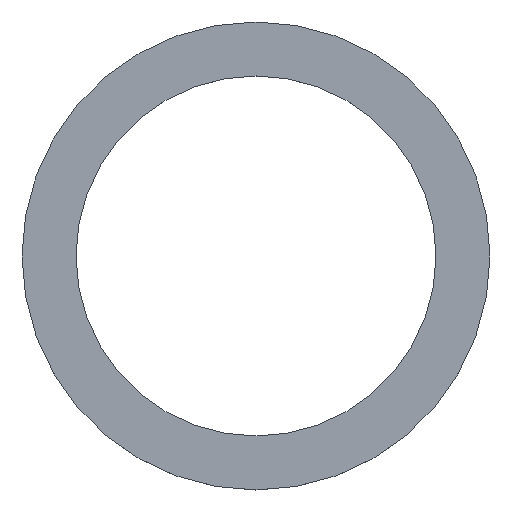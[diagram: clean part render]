
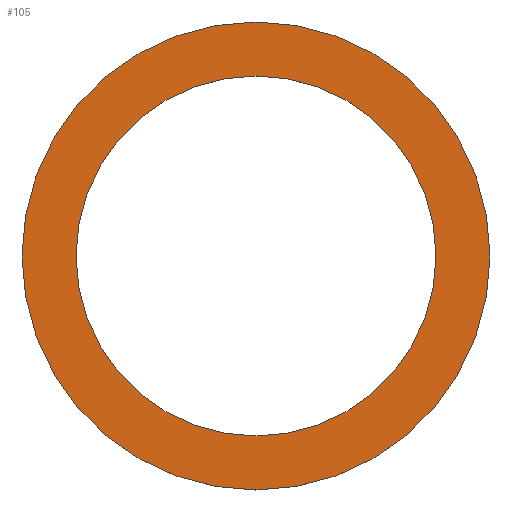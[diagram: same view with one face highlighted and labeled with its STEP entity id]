
A CAD part, top view. The second image highlights one B-rep face of the part: STEP entity #105.
In plain terms, the highlighted planar face has unit normal (0, 0, 1).
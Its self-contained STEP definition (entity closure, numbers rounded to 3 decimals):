
#21 = EDGE_CURVE('',#22,#22,#24,.T.);
#22 = VERTEX_POINT('',#23);
#23 = CARTESIAN_POINT('',(1.3,0.,5.3));
#24 = SURFACE_CURVE('',#25,(#30,#42),.PCURVE_S1.);
#25 = CIRCLE('',#26,1.3);
#26 = AXIS2_PLACEMENT_3D('',#27,#28,#29);
#27 = CARTESIAN_POINT('',(0.,0.,5.3));
#28 = DIRECTION('',(0.,0.,1.));
#29 = DIRECTION('',(1.,0.,-0.));
#30 = PCURVE('',#31,#36);
#31 = CYLINDRICAL_SURFACE('',#32,1.3);
#32 = AXIS2_PLACEMENT_3D('',#33,#34,#35);
#33 = CARTESIAN_POINT('',(0.,0.,5.2));
#34 = DIRECTION('',(0.,0.,1.));
#35 = DIRECTION('',(1.,0.,-0.));
#36 = DEFINITIONAL_REPRESENTATION('',(#37),#41);
#37 = LINE('',#38,#39);
#38 = CARTESIAN_POINT('',(0.,0.1));
#39 = VECTOR('',#40,1.);
#40 = DIRECTION('',(1.,0.));
#41 = ( GEOMETRIC_REPRESENTATION_CONTEXT(2) 
PARAMETRIC_REPRESENTATION_CONTEXT() REPRESENTATION_CONTEXT('2D SPACE',''
  ) );
#42 = PCURVE('',#43,#48);
#43 = PLANE('',#44);
#44 = AXIS2_PLACEMENT_3D('',#45,#46,#47);
#45 = CARTESIAN_POINT('',(0.,0.,5.3));
#46 = DIRECTION('',(0.,0.,1.));
#47 = DIRECTION('',(1.,0.,-0.));
#48 = DEFINITIONAL_REPRESENTATION('',(#49),#53);
#49 = CIRCLE('',#50,1.3);
#50 = AXIS2_PLACEMENT_2D('',#51,#52);
#51 = CARTESIAN_POINT('',(0.,0.));
#52 = DIRECTION('',(1.,0.));
#53 = ( GEOMETRIC_REPRESENTATION_CONTEXT(2) 
PARAMETRIC_REPRESENTATION_CONTEXT() REPRESENTATION_CONTEXT('2D SPACE',''
  ) );
#105 = ADVANCED_FACE('',(#106,#109),#43,.T.);
#106 = FACE_BOUND('',#107,.T.);
#107 = EDGE_LOOP('',(#108));
#108 = ORIENTED_EDGE('',*,*,#21,.T.);
#109 = FACE_BOUND('',#110,.T.);
#110 = EDGE_LOOP('',(#111));
#111 = ORIENTED_EDGE('',*,*,#112,.F.);
#112 = EDGE_CURVE('',#113,#113,#115,.T.);
#113 = VERTEX_POINT('',#114);
#114 = CARTESIAN_POINT('',(1.,0.,5.3));
#115 = SURFACE_CURVE('',#116,(#121,#128),.PCURVE_S1.);
#116 = CIRCLE('',#117,1.);
#117 = AXIS2_PLACEMENT_3D('',#118,#119,#120);
#118 = CARTESIAN_POINT('',(0.,0.,5.3));
#119 = DIRECTION('',(0.,0.,1.));
#120 = DIRECTION('',(1.,0.,-0.));
#121 = PCURVE('',#43,#122);
#122 = DEFINITIONAL_REPRESENTATION('',(#123),#127);
#123 = CIRCLE('',#124,1.);
#124 = AXIS2_PLACEMENT_2D('',#125,#126);
#125 = CARTESIAN_POINT('',(0.,0.));
#126 = DIRECTION('',(1.,0.));
#127 = ( GEOMETRIC_REPRESENTATION_CONTEXT(2) 
PARAMETRIC_REPRESENTATION_CONTEXT() REPRESENTATION_CONTEXT('2D SPACE',''
  ) );
#128 = PCURVE('',#129,#134);
#129 = CYLINDRICAL_SURFACE('',#130,1.);
#130 = AXIS2_PLACEMENT_3D('',#131,#132,#133);
#131 = CARTESIAN_POINT('',(0.,0.,5.19));
#132 = DIRECTION('',(0.,0.,1.));
#133 = DIRECTION('',(1.,0.,-0.));
#134 = DEFINITIONAL_REPRESENTATION('',(#135),#139);
#135 = LINE('',#136,#137);
#136 = CARTESIAN_POINT('',(0.,0.11));
#137 = VECTOR('',#138,1.);
#138 = DIRECTION('',(1.,0.));
#139 = ( GEOMETRIC_REPRESENTATION_CONTEXT(2) 
PARAMETRIC_REPRESENTATION_CONTEXT() REPRESENTATION_CONTEXT('2D SPACE',''
  ) );
